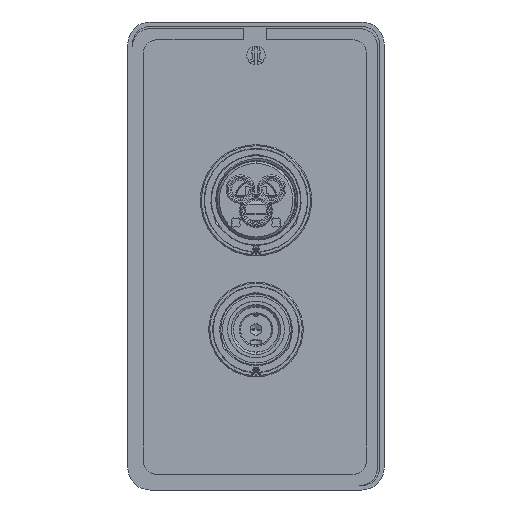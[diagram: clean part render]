
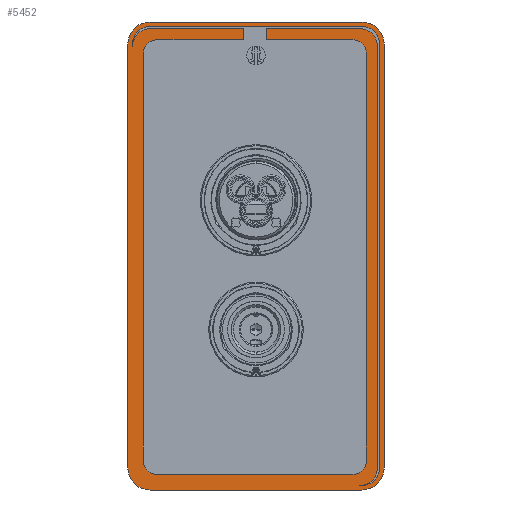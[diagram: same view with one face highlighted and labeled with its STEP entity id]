
A CAD part, front view. The second image highlights one B-rep face of the part: STEP entity #5452.
In plain terms, the highlighted planar face has unit normal (0, -1, 0).
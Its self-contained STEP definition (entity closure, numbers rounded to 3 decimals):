
#799=DIRECTION('',(-1.,0.,0.));
#800=VECTOR('',#799,42.);
#801=CARTESIAN_POINT('',(46.5,0.,102.));
#802=LINE('',#801,#800);
#811=CARTESIAN_POINT('',(46.5,0.,94.));
#812=DIRECTION('',(0.,-1.,0.));
#813=DIRECTION('',(1.,0.,0.));
#814=AXIS2_PLACEMENT_3D('',#811,#812,#813);
#820=DIRECTION('',(0.,0.,1.));
#821=VECTOR('',#820,189.);
#822=CARTESIAN_POINT('',(54.5,0.,-95.));
#823=LINE('',#822,#821);
#824=CARTESIAN_POINT('',(46.5,0.,-95.));
#825=DIRECTION('',(0.,-1.,0.));
#826=DIRECTION('',(0.,0.,-1.));
#827=AXIS2_PLACEMENT_3D('',#824,#825,#826);
#837=CARTESIAN_POINT('',(47.5,0.,-95.));
#838=DIRECTION('',(0.,-1.,0.));
#839=DIRECTION('',(0.,0.,-1.));
#840=AXIS2_PLACEMENT_3D('',#837,#838,#839);
#842=DIRECTION('',(-1.,0.,0.));
#843=VECTOR('',#842,95.);
#844=CARTESIAN_POINT('',(47.5,0.,-105.));
#845=LINE('',#844,#843);
#846=CARTESIAN_POINT('',(-47.5,0.,-95.));
#847=DIRECTION('',(0.,-1.,0.));
#848=DIRECTION('',(-1.,0.,0.));
#849=AXIS2_PLACEMENT_3D('',#846,#847,#848);
#851=DIRECTION('',(0.,0.,1.));
#852=VECTOR('',#851,190.);
#853=CARTESIAN_POINT('',(-57.5,0.,-95.));
#854=LINE('',#853,#852);
#855=CARTESIAN_POINT('',(-47.5,0.,95.));
#856=DIRECTION('',(0.,-1.,0.));
#857=DIRECTION('',(0.,0.,1.));
#858=AXIS2_PLACEMENT_3D('',#855,#856,#857);
#860=DIRECTION('',(1.,0.,0.));
#861=VECTOR('',#860,95.);
#862=CARTESIAN_POINT('',(-47.5,0.,105.));
#863=LINE('',#862,#861);
#864=CARTESIAN_POINT('',(47.5,0.,95.));
#865=DIRECTION('',(0.,-1.,0.));
#866=DIRECTION('',(1.,0.,0.));
#867=AXIS2_PLACEMENT_3D('',#864,#865,#866);
#869=DIRECTION('',(0.,0.,-1.));
#870=VECTOR('',#869,190.);
#871=CARTESIAN_POINT('',(57.5,0.,95.));
#872=LINE('',#871,#870);
#873=DIRECTION('',(0.,0.,1.));
#874=VECTOR('',#873,1.);
#875=CARTESIAN_POINT('',(-55.5,0.,94.));
#876=LINE('',#875,#874);
#877=DIRECTION('',(-1.,0.,0.));
#878=VECTOR('',#877,1.);
#879=CARTESIAN_POINT('',(47.5,0.,-103.));
#880=LINE('',#879,#878);
#881=CARTESIAN_POINT('',(47.5,0.,-95.));
#882=DIRECTION('',(0.,-1.,0.));
#883=DIRECTION('',(0.,0.,-1.));
#884=AXIS2_PLACEMENT_3D('',#881,#882,#883);
#886=DIRECTION('',(0.,0.,-1.));
#887=VECTOR('',#886,190.);
#888=CARTESIAN_POINT('',(55.5,0.,95.));
#889=LINE('',#888,#887);
#890=CARTESIAN_POINT('',(47.5,0.,95.));
#891=DIRECTION('',(0.,-1.,0.));
#892=DIRECTION('',(1.,0.,0.));
#893=AXIS2_PLACEMENT_3D('',#890,#891,#892);
#895=DIRECTION('',(1.,0.,0.));
#896=VECTOR('',#895,95.);
#897=CARTESIAN_POINT('',(-47.5,0.,103.));
#898=LINE('',#897,#896);
#899=CARTESIAN_POINT('',(-47.5,0.,95.));
#900=DIRECTION('',(0.,-1.,0.));
#901=DIRECTION('',(0.,0.,1.));
#902=AXIS2_PLACEMENT_3D('',#899,#900,#901);
#2807=CARTESIAN_POINT('',(-47.5,0.,94.));
#2808=DIRECTION('',(0.,-1.,0.));
#2809=DIRECTION('',(0.,0.,1.));
#2810=AXIS2_PLACEMENT_3D('',#2807,#2808,#2809);
#2816=DIRECTION('',(-1.,0.,0.));
#2817=VECTOR('',#2816,42.);
#2818=CARTESIAN_POINT('',(-5.5,0.,102.));
#2819=LINE('',#2818,#2817);
#2820=DIRECTION('',(0.,0.,-1.));
#2821=VECTOR('',#2820,5.);
#2822=CARTESIAN_POINT('',(-5.5,0.,102.));
#2823=LINE('',#2822,#2821);
#2828=DIRECTION('',(1.,0.,0.));
#2829=VECTOR('',#2828,39.);
#2830=CARTESIAN_POINT('',(-44.5,0.,97.));
#2831=LINE('',#2830,#2829);
#2840=CARTESIAN_POINT('',(-44.5,0.,91.));
#2841=DIRECTION('',(0.,-1.,0.));
#2842=DIRECTION('',(0.,0.,1.));
#2843=AXIS2_PLACEMENT_3D('',#2840,#2841,#2842);
#2849=DIRECTION('',(0.,0.,1.));
#2850=VECTOR('',#2849,183.);
#2851=CARTESIAN_POINT('',(-50.5,0.,-92.));
#2852=LINE('',#2851,#2850);
#2857=CARTESIAN_POINT('',(-44.5,0.,-92.));
#2858=DIRECTION('',(0.,-1.,0.));
#2859=DIRECTION('',(-1.,0.,0.));
#2860=AXIS2_PLACEMENT_3D('',#2857,#2858,#2859);
#2866=DIRECTION('',(-1.,0.,0.));
#2867=VECTOR('',#2866,88.);
#2868=CARTESIAN_POINT('',(43.5,0.,-98.));
#2869=LINE('',#2868,#2867);
#2874=CARTESIAN_POINT('',(43.5,0.,-92.));
#2875=DIRECTION('',(0.,-1.,0.));
#2876=DIRECTION('',(0.,0.,-1.));
#2877=AXIS2_PLACEMENT_3D('',#2874,#2875,#2876);
#2883=DIRECTION('',(0.,0.,-1.));
#2884=VECTOR('',#2883,183.);
#2885=CARTESIAN_POINT('',(49.5,0.,91.));
#2886=LINE('',#2885,#2884);
#2891=CARTESIAN_POINT('',(43.5,0.,91.));
#2892=DIRECTION('',(0.,-1.,0.));
#2893=DIRECTION('',(1.,0.,0.));
#2894=AXIS2_PLACEMENT_3D('',#2891,#2892,#2893);
#2900=DIRECTION('',(1.,0.,0.));
#2901=VECTOR('',#2900,39.);
#2902=CARTESIAN_POINT('',(4.5,0.,97.));
#2903=LINE('',#2902,#2901);
#2904=DIRECTION('',(0.,0.,1.));
#2905=VECTOR('',#2904,5.);
#2906=CARTESIAN_POINT('',(4.5,0.,97.));
#2907=LINE('',#2906,#2905);
#3796=CARTESIAN_POINT('',(47.5,0.,-105.));
#3797=CARTESIAN_POINT('',(57.5,0.,-95.));
#3798=VERTEX_POINT('',#3796);
#3799=VERTEX_POINT('',#3797);
#3800=CARTESIAN_POINT('',(-57.5,0.,-95.));
#3801=CARTESIAN_POINT('',(-47.5,0.,-105.));
#3802=VERTEX_POINT('',#3800);
#3803=VERTEX_POINT('',#3801);
#3804=CARTESIAN_POINT('',(57.5,0.,95.));
#3805=CARTESIAN_POINT('',(47.5,0.,105.));
#3806=VERTEX_POINT('',#3804);
#3807=VERTEX_POINT('',#3805);
#3808=CARTESIAN_POINT('',(-47.5,0.,105.));
#3809=CARTESIAN_POINT('',(-57.5,0.,95.));
#3810=VERTEX_POINT('',#3808);
#3811=VERTEX_POINT('',#3809);
#3824=CARTESIAN_POINT('',(-47.5,0.,103.));
#3825=CARTESIAN_POINT('',(47.5,0.,103.));
#3826=VERTEX_POINT('',#3824);
#3827=VERTEX_POINT('',#3825);
#3828=CARTESIAN_POINT('',(55.5,0.,95.));
#3829=CARTESIAN_POINT('',(55.5,0.,-95.));
#3830=VERTEX_POINT('',#3828);
#3831=VERTEX_POINT('',#3829);
#3832=CARTESIAN_POINT('',(47.5,0.,-103.));
#3833=VERTEX_POINT('',#3832);
#3834=CARTESIAN_POINT('',(-55.5,0.,95.));
#3835=VERTEX_POINT('',#3834);
#4753=CARTESIAN_POINT('',(46.5,0.,102.));
#4754=CARTESIAN_POINT('',(4.5,0.,102.));
#4755=VERTEX_POINT('',#4753);
#4756=VERTEX_POINT('',#4754);
#4757=CARTESIAN_POINT('',(-5.5,0.,102.));
#4758=CARTESIAN_POINT('',(-47.5,0.,102.));
#4759=VERTEX_POINT('',#4757);
#4760=VERTEX_POINT('',#4758);
#4761=CARTESIAN_POINT('',(54.5,0.,-95.));
#4762=CARTESIAN_POINT('',(54.5,0.,94.));
#4763=VERTEX_POINT('',#4761);
#4764=VERTEX_POINT('',#4762);
#4765=CARTESIAN_POINT('',(49.5,0.,91.));
#4766=CARTESIAN_POINT('',(43.5,0.,97.));
#4767=VERTEX_POINT('',#4765);
#4768=VERTEX_POINT('',#4766);
#4769=CARTESIAN_POINT('',(49.5,0.,-92.));
#4770=VERTEX_POINT('',#4769);
#4771=CARTESIAN_POINT('',(43.5,0.,-98.));
#4772=VERTEX_POINT('',#4771);
#4773=CARTESIAN_POINT('',(-44.5,0.,-98.));
#4774=VERTEX_POINT('',#4773);
#4775=CARTESIAN_POINT('',(-50.5,0.,-92.));
#4776=VERTEX_POINT('',#4775);
#4777=CARTESIAN_POINT('',(-50.5,0.,91.));
#4778=VERTEX_POINT('',#4777);
#4779=CARTESIAN_POINT('',(-44.5,0.,97.));
#4780=VERTEX_POINT('',#4779);
#4781=CARTESIAN_POINT('',(-5.5,0.,97.));
#4782=VERTEX_POINT('',#4781);
#4783=CARTESIAN_POINT('',(4.5,0.,97.));
#4784=VERTEX_POINT('',#4783);
#4821=CARTESIAN_POINT('',(46.5,0.,-103.));
#4822=VERTEX_POINT('',#4821);
#4823=CARTESIAN_POINT('',(-55.5,0.,94.));
#4824=VERTEX_POINT('',#4823);
#5385=CARTESIAN_POINT('',(0.,0.,0.));
#5386=DIRECTION('',(0.,1.,0.));
#5387=DIRECTION('',(1.,0.,0.));
#5388=AXIS2_PLACEMENT_3D('',#5385,#5386,#5387);
#5389=PLANE('',#5388);
#5391=ORIENTED_EDGE('',*,*,#5390,.F.);
#5393=ORIENTED_EDGE('',*,*,#5392,.T.);
#5395=ORIENTED_EDGE('',*,*,#5394,.F.);
#5397=ORIENTED_EDGE('',*,*,#5396,.T.);
#5399=ORIENTED_EDGE('',*,*,#5398,.F.);
#5401=ORIENTED_EDGE('',*,*,#5400,.T.);
#5403=ORIENTED_EDGE('',*,*,#5402,.F.);
#5405=ORIENTED_EDGE('',*,*,#5404,.T.);
#5406=EDGE_LOOP('',(#5391,#5393,#5395,#5397,#5399,#5401,#5403,#5405));
#5407=FACE_OUTER_BOUND('',#5406,.F.);
#5409=ORIENTED_EDGE('',*,*,#5408,.F.);
#5411=ORIENTED_EDGE('',*,*,#5410,.F.);
#5413=ORIENTED_EDGE('',*,*,#5412,.F.);
#5415=ORIENTED_EDGE('',*,*,#5414,.T.);
#5417=ORIENTED_EDGE('',*,*,#5416,.F.);
#5419=ORIENTED_EDGE('',*,*,#5418,.T.);
#5421=ORIENTED_EDGE('',*,*,#5420,.F.);
#5423=ORIENTED_EDGE('',*,*,#5422,.T.);
#5425=ORIENTED_EDGE('',*,*,#5424,.F.);
#5427=ORIENTED_EDGE('',*,*,#5426,.T.);
#5429=ORIENTED_EDGE('',*,*,#5428,.F.);
#5431=ORIENTED_EDGE('',*,*,#5430,.T.);
#5433=ORIENTED_EDGE('',*,*,#5432,.F.);
#5435=ORIENTED_EDGE('',*,*,#5434,.T.);
#5436=ORIENTED_EDGE('',*,*,#5308,.F.);
#5437=ORIENTED_EDGE('',*,*,#5323,.F.);
#5438=ORIENTED_EDGE('',*,*,#5337,.F.);
#5439=ORIENTED_EDGE('',*,*,#5351,.F.);
#5440=ORIENTED_EDGE('',*,*,#5366,.F.);
#5441=ORIENTED_EDGE('',*,*,#5376,.T.);
#5443=ORIENTED_EDGE('',*,*,#5442,.F.);
#5445=ORIENTED_EDGE('',*,*,#5444,.T.);
#5447=ORIENTED_EDGE('',*,*,#5446,.F.);
#5449=ORIENTED_EDGE('',*,*,#5448,.T.);
#5450=EDGE_LOOP('',(#5409,#5411,#5413,#5415,#5417,#5419,#5421,#5423,#5425,#5427,
#5429,#5431,#5433,#5435,#5436,#5437,#5438,#5439,#5440,#5441,#5443,#5445,#5447,
#5449));
#5451=FACE_BOUND('',#5450,.F.);
#5452=ADVANCED_FACE('',(#5407,#5451),#5389,.F.);
#815=CIRCLE('',#814,8.);
#828=CIRCLE('',#827,8.);
#841=CIRCLE('',#840,10.);
#850=CIRCLE('',#849,10.);
#859=CIRCLE('',#858,10.);
#868=CIRCLE('',#867,10.);
#885=CIRCLE('',#884,8.);
#894=CIRCLE('',#893,8.);
#903=CIRCLE('',#902,8.);
#2811=CIRCLE('',#2810,8.);
#2844=CIRCLE('',#2843,6.);
#2861=CIRCLE('',#2860,6.);
#2878=CIRCLE('',#2877,6.);
#2895=CIRCLE('',#2894,6.);
#5308=EDGE_CURVE('',#4755,#4756,#802,.T.);
#5323=EDGE_CURVE('',#4764,#4755,#815,.T.);
#5337=EDGE_CURVE('',#4763,#4764,#823,.T.);
#5351=EDGE_CURVE('',#4822,#4763,#828,.T.);
#5366=EDGE_CURVE('',#3833,#4822,#880,.T.);
#5376=EDGE_CURVE('',#3833,#3831,#885,.T.);
#5390=EDGE_CURVE('',#3798,#3799,#841,.T.);
#5392=EDGE_CURVE('',#3798,#3803,#845,.T.);
#5394=EDGE_CURVE('',#3802,#3803,#850,.T.);
#5396=EDGE_CURVE('',#3802,#3811,#854,.T.);
#5398=EDGE_CURVE('',#3810,#3811,#859,.T.);
#5400=EDGE_CURVE('',#3810,#3807,#863,.T.);
#5402=EDGE_CURVE('',#3806,#3807,#868,.T.);
#5404=EDGE_CURVE('',#3806,#3799,#872,.T.);
#5408=EDGE_CURVE('',#4824,#3835,#876,.T.);
#5410=EDGE_CURVE('',#4760,#4824,#2811,.T.);
#5412=EDGE_CURVE('',#4759,#4760,#2819,.T.);
#5414=EDGE_CURVE('',#4759,#4782,#2823,.T.);
#5416=EDGE_CURVE('',#4780,#4782,#2831,.T.);
#5418=EDGE_CURVE('',#4780,#4778,#2844,.T.);
#5420=EDGE_CURVE('',#4776,#4778,#2852,.T.);
#5422=EDGE_CURVE('',#4776,#4774,#2861,.T.);
#5424=EDGE_CURVE('',#4772,#4774,#2869,.T.);
#5426=EDGE_CURVE('',#4772,#4770,#2878,.T.);
#5428=EDGE_CURVE('',#4767,#4770,#2886,.T.);
#5430=EDGE_CURVE('',#4767,#4768,#2895,.T.);
#5432=EDGE_CURVE('',#4784,#4768,#2903,.T.);
#5434=EDGE_CURVE('',#4784,#4756,#2907,.T.);
#5442=EDGE_CURVE('',#3830,#3831,#889,.T.);
#5444=EDGE_CURVE('',#3830,#3827,#894,.T.);
#5446=EDGE_CURVE('',#3826,#3827,#898,.T.);
#5448=EDGE_CURVE('',#3826,#3835,#903,.T.);
